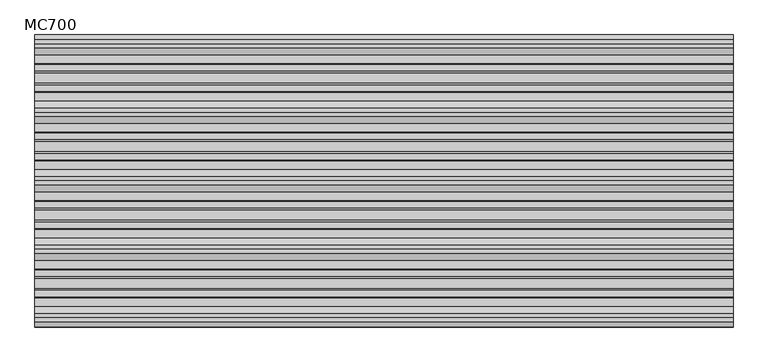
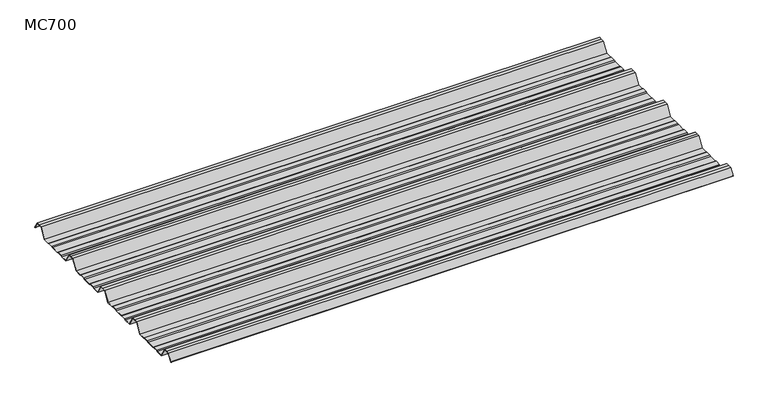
"""IFC4 building model written with IfcOpenShell, lengths in millimetres: beam geometry, 3D_Metalcraft MC700_Translucent : MC700."""

from ifc_helpers import new_model, si_unit, point, frame, frame_2d, origin, place, context, project, spatial, polyline, circle_curve, trimmed, segment, composite_curve, outline, extrude, source, transform, mapped, element, save


def mc700_85815ef7(model_context):
    return source(origin(), model_context, "Body", "SweptSolid", [
        extrude(outline(composite_curve([segment(polyline([(-29.07451, -24.7896475), (-11.0, 6.2103525), (0.0, 6.2103525), (11.0, 6.2103525), (23.5921889, -15.3867949)]), True, "CONTINUOUS"), segment(trimmed(circle_curve(frame_2d((23.160246, -15.6386387)), 0.5), [point((23.5921889, -15.3867949))], [point((22.728303, -15.8904825))], False, "CARTESIAN"), True, "CONTINUOUS"), segment(polyline([(22.728303, -15.8904825), (10.4254884, 5.2103525), (0.0, 5.2103525), (-10.4254884, 5.2103525), (-28.4999984, -25.7896475), (-51.197636, -25.7896475), (-54.4126802, -23.7494212), (-70.8406714, -23.7494212), (-75.2209891, -25.7896475), (-102.2790109, -25.7896475), (-106.6593286, -23.7494212), (-123.0873198, -23.7494212), (-126.302364, -25.7896475), (-149.0000016, -25.7896475), (-167.0745116, 5.2103525), (-177.5, 5.2103525), (-187.9254884, 5.2103525), (-205.9999984, -25.7896475), (-228.697636, -25.7896475), (-231.9126802, -23.7494212), (-248.3406714, -23.7494212), (-252.7209891, -25.7896475), (-279.7790109, -25.7896475), (-284.1593286, -23.7494212), (-300.5873198, -23.7494212), (-303.802364, -25.7896475), (-326.5000016, -25.7896475), (-344.5745116, 5.2103525), (-355.0, 5.2103525), (-365.4254884, 5.2103525), (-383.4999984, -25.7896475), (-406.197636, -25.7896475), (-409.4126802, -23.7494212), (-425.8406714, -23.7494212), (-430.2209891, -25.7896475), (-457.2790109, -25.7896475), (-461.6593286, -23.7494212), (-478.0873198, -23.7494212), (-481.302364, -25.7896475), (-504.0000016, -25.7896475), (-522.0745116, 5.2103525), (-532.5, 5.2103525), (-542.9254884, 5.2103525), (-560.9999984, -25.7896475), (-583.697636, -25.7896475), (-586.9126802, -23.7494212), (-603.3406714, -23.7494212), (-607.7209891, -25.7896475), (-634.7790109, -25.7896475), (-639.1593286, -23.7494212), (-655.5873198, -23.7494212), (-658.802364, -25.7896475), (-681.5000016, -25.7896475), (-699.5745116, 5.2103525), (-710.0, 5.2103525), (-720.4254884, 5.2103525), (-732.728303, -15.8904825)]), True, "CONTINUOUS"), segment(trimmed(circle_curve(frame_2d((-733.160246, -15.6386387)), 0.5), [point((-732.728303, -15.8904825))], [point((-733.5921889, -15.3867949))], False, "CARTESIAN"), True, "CONTINUOUS"), segment(polyline([(-733.5921889, -15.3867949), (-721.0, 6.2103525), (-710.0, 6.2103525), (-699.0, 6.2103525), (-680.92549, -24.7896475), (-659.0928785, -24.7896475), (-655.8778343, -22.7494212), (-638.9378651, -22.7494212), (-634.5575473, -24.7896475), (-607.9424527, -24.7896475), (-603.5621349, -22.7494212), (-586.6221657, -22.7494212), (-583.4071215, -24.7896475), (-561.57451, -24.7896475), (-543.5, 6.2103525), (-532.5, 6.2103525), (-521.5, 6.2103525), (-503.42549, -24.7896475), (-481.5928785, -24.7896475), (-478.3778343, -22.7494212), (-461.4378651, -22.7494212), (-457.0575473, -24.7896475), (-430.4424527, -24.7896475), (-426.0621349, -22.7494212), (-409.1221657, -22.7494212), (-405.9071215, -24.7896475), (-384.07451, -24.7896475), (-366.0, 6.2103525), (-355.0, 6.2103525), (-344.0, 6.2103525), (-325.92549, -24.7896475), (-304.0928785, -24.7896475), (-300.8778343, -22.7494212), (-283.9378651, -22.7494212), (-279.5575473, -24.7896475), (-252.9424527, -24.7896475), (-248.5621349, -22.7494212), (-231.6221657, -22.7494212), (-228.4071215, -24.7896475), (-206.57451, -24.7896475), (-188.5, 6.2103525), (-177.5, 6.2103525), (-166.5, 6.2103525), (-148.42549, -24.7896475), (-126.5928785, -24.7896475), (-123.3778343, -22.7494212), (-106.4378651, -22.7494212), (-102.0575473, -24.7896475), (-75.4424527, -24.7896475), (-71.0621349, -22.7494212), (-54.1221657, -22.7494212), (-50.9071215, -24.7896475), (-29.07451, -24.7896475)]), True, "CONTINUOUS")], self_intersect=False)), frame((-905.0, 0.0, 0.0), z_axis=(1.0, 0.0, 0.0), x_axis=(0.0, 1.0, 0.0)), (0.0, 0.0, 1.0), 1810.0),
    ])


if __name__ == "__main__":
    model = new_model("IFC4")
    model_context = context("Model", 3, world=origin())
    ifc_project = project(units=[si_unit("LENGTHUNIT", "METRE", prefix="MILLI")], contexts=[model_context])
    site = spatial("IfcSite", under=ifc_project)
    building = spatial("IfcBuilding", under=site)
    placement = place(None, origin())
    mc700_shape = mc700_85815ef7(model_context)
    element("IfcBeam", 1, ObjectType="3D_Metalcraft MC700_Translucent : MC700", at=placement, inside=building, context=model_context, shape_type="MappedRepresentation", body=[
        mapped(mc700_shape, transform((0.0, 0.0, 0.0), x_axis=(1.0, 0.0, 0.0), y_axis=(0.0, 1.0, 0.0), z_axis=(0.0, 0.0, 1.0))),
    ])
    save(model, "model.ifc")
